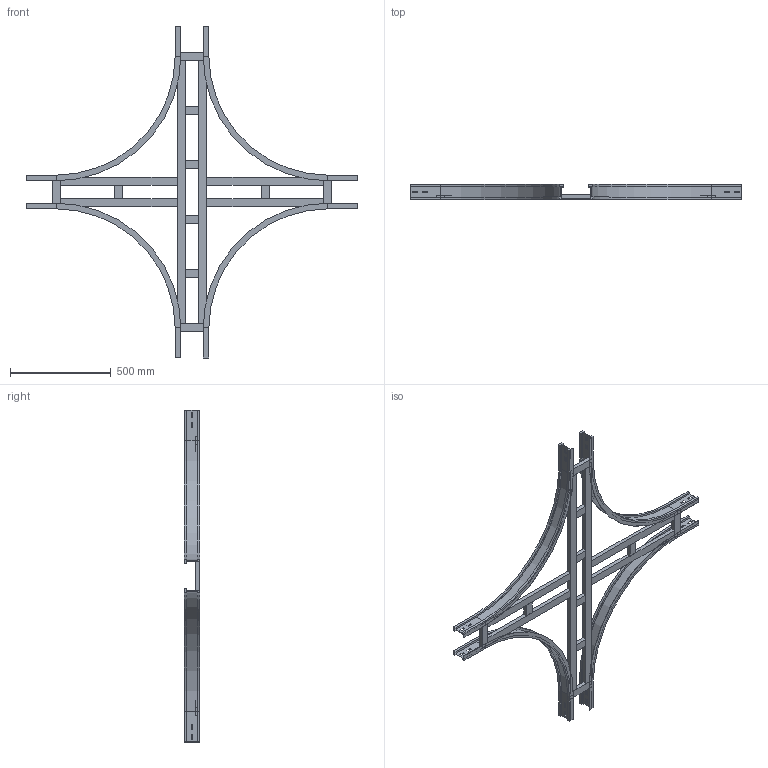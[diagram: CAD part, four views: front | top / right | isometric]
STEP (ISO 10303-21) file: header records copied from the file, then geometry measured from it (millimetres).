
FILE_DESCRIPTION (( 'STEP AP214' ), '1' );
FILE_NAME ('17S6C150.step', '2025-02-21T16:18:53', ( '' ), ( '' ), 'SwSTEP 2.0', 'SolidWorks 2023', '' );
FILE_SCHEMA (( 'AUTOMOTIVE_DESIGN' ));
Length unit declared in the file: millimetre
Products named in the file (7): TRAVERSINO_COPPIA_150; LONGH.INTERNO 90°_H75_R600; TRAVERSINO_INTERMEDIO_X_R600+150; 17S6C150; TRAVERSINO_VERT_R600; TRAVERSINO_LONG._R600+150; TRAVERSINO_150
Assembly tree (20 placements, depth 2):
  17S6C150
    LONGH.INTERNO 90°_H75_R600  x4
    TRAVERSINO_150  x4
    TRAVERSINO_LONG._R600+150  x2
    TRAVERSINO_INTERMEDIO_X_R600+150  x4
    TRAVERSINO_VERT_R600  x4
    TRAVERSINO_COPPIA_150  x2
Bounding box: 1650 x 75 x 1650 mm (x, y, z)
Volume: 7247603.5 mm3; surface area: 1971829.8 mm2
Topology: 20 solids, 20 shells, 312 faces, 720 edges, 448 vertices
Faces by surface type: plane 288, cylinder 24
Entity records: 2644 total; most frequent: CARTESIAN_POINT 419, DIRECTION 418, ORIENTED_EDGE 384, EDGE_CURVE 192, VECTOR 180, LINE 180, VERTEX_POINT 120, AXIS2_PLACEMENT_3D 119
